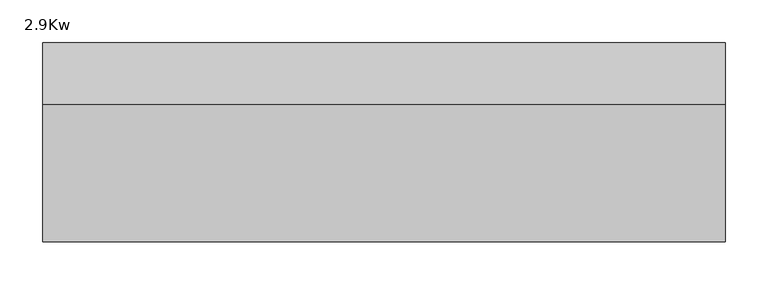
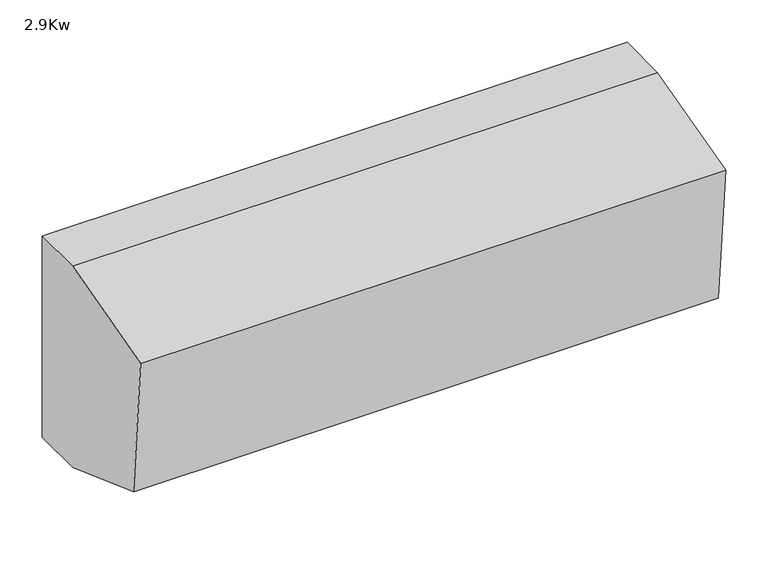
"""IFC4 building model written with IfcOpenShell, lengths in millimetres: proxy geometry, Fan_Coil_Unit-Daikin-FXAQ-P-WallMount-ConnBack : 2.9Kw."""

from ifc_helpers import new_model, si_unit, point, frame, frame_2d, origin, place, context, project, spatial, polyline, circle_curve, trimmed, segment, composite_curve, outline, extrude, source, transform, mapped, element, save
from ifc_brep_helpers import plane_surface, revolved_surface, advanced_brep


def proxy_2_9kw_1a9f3e23(model_context):
    return source(origin(), model_context, "Body", "SolidModel", [
        extrude(outline(composite_curve([segment(trimmed(circle_curve(frame_2d((57.15, -356.225)), 8.73125), [point((57.15, -364.95625))], [point((57.15, -347.49375))], False, "CARTESIAN"), True, "CONTINUOUS"), segment(trimmed(circle_curve(frame_2d((57.15, -356.225)), 8.73125), [point((57.15, -347.49375))], [point((57.15, -364.95625))], False, "CARTESIAN"), True, "CONTINUOUS")], self_intersect=False)), frame((0.0, 106.3625, 0.0), z_axis=(0.0, 1.0, 0.0), x_axis=(0.0, 0.0, 1.0)), (0.0, 0.0, 1.0), 9.525),
        extrude(outline(composite_curve([segment(trimmed(circle_curve(frame_2d((25.4, -330.825)), 6.35), [point((25.4, -337.175))], [point((25.4, -324.475))], False, "CARTESIAN"), True, "CONTINUOUS"), segment(trimmed(circle_curve(frame_2d((25.4, -330.825)), 6.35), [point((25.4, -324.475))], [point((25.4, -337.175))], False, "CARTESIAN"), True, "CONTINUOUS")], self_intersect=False)), frame((0.0, 106.3625, 0.0), z_axis=(0.0, 1.0, 0.0), x_axis=(0.0, 0.0, 1.0)), (0.0, 0.0, 1.0), 9.525),
        advanced_brep(
        [(397.5, 115.8875, 290.0), (397.5, 44.45, 290.0), (397.5, -115.979396, 247.0130729), (397.5, -98.9343798, 52.1876463), (397.5, 44.45, 0.0), (397.5, 115.8875, 0.0), (-397.5, 115.8875, 290.0), (-397.5, 115.8875, 0.0), (-397.5, 44.45, 0.0), (-397.5, -98.9343798, 52.1876463), (-397.5, -115.979396, 247.0130729), (-397.5, 44.45, 290.0), (-376.875, 115.8875, 44.45), (-297.475, 115.8875, 44.45), (-376.875, 106.3625, 44.45), (-297.475, 106.3625, 44.45)],
        [
            (0, 1),
            (1, 2),
            (2, 3),
            (3, 4),
            (4, 5),
            (5, 0),
            (6, 7),
            (7, 8),
            (8, 9),
            (9, 10),
            (10, 11),
            (11, 6),
            (0, 6),
            (11, 1),
            (10, 2),
            (9, 3),
            (8, 4),
            (7, 5),
            (12, 13, circle_curve(frame((-337.175, 115.8875, 44.45), z_axis=(0.0, -1.0, 0.0), x_axis=(1.0, 0.0, 0.0)), 39.7)),
            (13, 12, circle_curve(frame((-337.175, 115.8875, 44.45), z_axis=(0.0, -1.0, 0.0), x_axis=(1.0, 0.0, 0.0)), 39.7)),
            (14, 15, circle_curve(frame((-337.175, 106.3625, 44.45), z_axis=(0.0, 1.0, 0.0), x_axis=(1.0, 0.0, 0.0)), 39.7)),
            (15, 14, circle_curve(frame((-337.175, 106.3625, 44.45), z_axis=(0.0, 1.0, 0.0), x_axis=(1.0, 0.0, 0.0)), 39.7)),
            (15, 13),
            (12, 14),
        ],
        [
            plane_surface(frame((397.5, 115.8875, 290.0), z_axis=(1.0, 0.0, 0.0), x_axis=(0.0, -1.0, 0.0))),
            plane_surface(frame((-397.5, 115.8875, 290.0), z_axis=(-1.0, 0.0, 0.0), x_axis=(0.0, 1.0, 0.0))),
            plane_surface(frame((397.5, 115.8875, 290.0), z_axis=(0.0, 0.0, 1.0), x_axis=(-1.0, 0.0, 0.0))),
            plane_surface(frame((397.5, 44.45, 290.0), z_axis=(0.0, -0.25881904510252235, 0.9659258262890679), x_axis=(-1.0, 0.0, 0.0))),
            plane_surface(frame((397.5, -115.979396, 247.0130729), z_axis=(0.0, -0.9961946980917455, -0.08715574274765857), x_axis=(-1.0, 0.0, 0.0))),
            plane_surface(frame((397.5, -98.9343798, 52.1876463), z_axis=(0.0, -0.34202014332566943, -0.9396926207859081), x_axis=(-1.0, 0.0, 0.0))),
            plane_surface(frame((397.5, 44.45, 0.0), z_axis=(0.0, 0.0, -1.0), x_axis=(-1.0, 0.0, 0.0))),
            plane_surface(frame((397.5, 115.8875, 0.0), z_axis=(0.0, 1.0, 0.0), x_axis=(-1.0, 0.0, 0.0))),
            plane_surface(frame((-297.475, 106.3625, 44.45), z_axis=(0.0, 1.0, 0.0), x_axis=(0.0, 0.0, 1.0))),
            revolved_surface(polyline([(-297.475, 106.3625, 44.45), (-297.475, 115.8875, 44.45)]), (-337.175, 115.8875, 44.45), (0.0, -1.0, 0.0)),
        ],
        [
            (0, [[1, 2, 3, 4, 5, 6]]),
            (1, [[7, 8, 9, 10, 11, 12]]),
            (2, [[-1, 13, -12, 14]]),
            (3, [[-2, -14, -11, 15]]),
            (4, [[-3, -15, -10, 16]]),
            (5, [[-4, -16, -9, 17]]),
            (6, [[-5, -17, -8, 18]]),
            (7, [[-6, -18, -7, -13], [19, 20]]),
            (8, [[21, 22]]),
            (9, [[-22, 23, -19, 24]]),
            (9, [[-21, -24, -20, -23]]),
        ],
    ),
        extrude(outline(composite_curve([segment(trimmed(circle_curve(frame_2d((63.5, -318.125)), 3.175), [point((63.5, -321.3))], [point((63.5, -314.95))], False, "CARTESIAN"), True, "CONTINUOUS"), segment(trimmed(circle_curve(frame_2d((63.5, -318.125)), 3.175), [point((63.5, -314.95))], [point((63.5, -321.3))], False, "CARTESIAN"), True, "CONTINUOUS")], self_intersect=False)), frame((0.0, 106.3625, 0.0), z_axis=(0.0, 1.0, 0.0), x_axis=(0.0, 0.0, 1.0)), (0.0, 0.0, 1.0), 9.525),
    ])


if __name__ == "__main__":
    model = new_model("IFC4")
    model_context = context("Model", 3, world=origin())
    ifc_project = project(units=[si_unit("LENGTHUNIT", "METRE", prefix="MILLI")], contexts=[model_context])
    site = spatial("IfcSite", under=ifc_project)
    building = spatial("IfcBuilding", under=site)
    placement = place(None, origin())
    proxy_2_9kw_shape = proxy_2_9kw_1a9f3e23(model_context)
    element("IfcBuildingElementProxy", 1, Name="Fan_Coil_Unit-Daikin-FXAQ-P-WallMount-ConnBack : 2.9Kw", ObjectType="Fan_Coil_Unit-Daikin-FXAQ-P-WallMount-ConnBack : 2.9Kw", at=placement, inside=building, context=model_context, shape_type="MappedRepresentation", body=[
        mapped(proxy_2_9kw_shape, transform((0.0, 0.0, 0.0), x_axis=(1.0, 0.0, 0.0), y_axis=(0.0, 1.0, 0.0), z_axis=(0.0, 0.0, 1.0))),
    ])
    save(model, "model.ifc")
